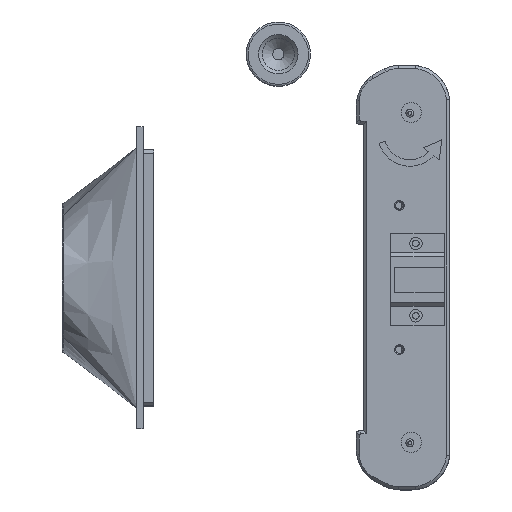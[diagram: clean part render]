
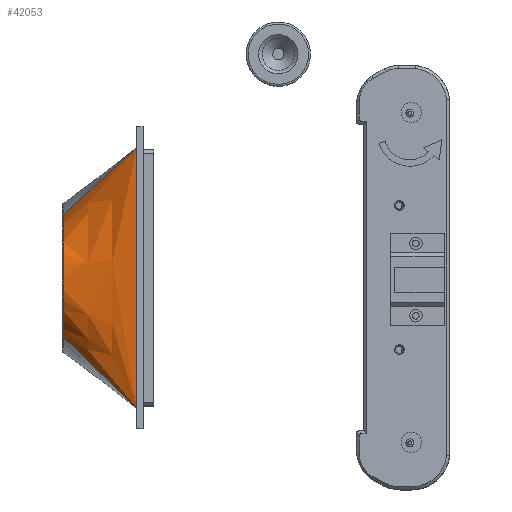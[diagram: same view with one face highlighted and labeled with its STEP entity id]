
A CAD part, top view. The second image highlights one B-rep face of the part: STEP entity #42053.
In plain terms, the highlighted free-form (B-spline) face has degree [3, 3] with [8, 4] control points.
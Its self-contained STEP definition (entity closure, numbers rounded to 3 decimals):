
#315=B_SPLINE_SURFACE_WITH_KNOTS($,3,3,((#75288,#75289,#75290,#75291),(#75292,
#75293,#75294,#75295),(#75296,#75297,#75298,#75299),(#75300,#75301,#75302,
#75303),(#75304,#75305,#75306,#75307),(#75308,#75309,#75310,#75311),(#75312,
#75313,#75314,#75315),(#75316,#75317,#75318,#75319)),.UNSPECIFIED.,.F.,
 .F.,.F.,(4,1,1,1,1,4),(4,4),(0.,0.143,
0.286,0.571,0.857,1.),
(0.,1.),.UNSPECIFIED.);
#1832=CIRCLE($,#45073,3.7);
#1833=CIRCLE($,#45074,3.7);
#4520=FACE_OUTER_BOUND($,#7305,.T.);
#7305=EDGE_LOOP($,(#37099,#37100,#37101,#37102,#37103));
#11845=LINE($,#75122,#16435);
#11879=LINE($,#75220,#16469);
#11882=LINE($,#75287,#16472);
#16435=VECTOR($,#55342,12.944);
#16469=VECTOR($,#55408,5.386);
#16472=VECTOR($,#55415,5.405);
#19816=VERTEX_POINT($,#75093);
#19819=VERTEX_POINT($,#75100);
#19845=VERTEX_POINT($,#75217);
#19848=VERTEX_POINT($,#75285);
#19849=VERTEX_POINT($,#75320);
#25581=EDGE_CURVE($,#19819,#19816,#11845,.T.);
#25616=EDGE_CURVE($,#19845,#19816,#11879,.T.);
#25621=EDGE_CURVE($,#19848,#19819,#11882,.T.);
#25622=EDGE_CURVE($,#19848,#19849,#1832,.T.);
#25623=EDGE_CURVE($,#19849,#19845,#1833,.T.);
#37099=ORIENTED_EDGE($,*,*,#25622,.F.);
#37100=ORIENTED_EDGE($,*,*,#25621,.T.);
#37101=ORIENTED_EDGE($,*,*,#25581,.T.);
#37102=ORIENTED_EDGE($,*,*,#25616,.F.);
#37103=ORIENTED_EDGE($,*,*,#25623,.F.);
#42053=ADVANCED_FACE($,(#4520),#315,.F.);
#45073=AXIS2_PLACEMENT_3D($,#75321,#55416,#55417);
#45074=AXIS2_PLACEMENT_3D($,#75322,#55418,#55419);
#55342=DIRECTION($,(0.,1.,0.));
#55408=DIRECTION($,(0.68,0.622,0.389));
#55415=DIRECTION($,(0.678,-0.652,0.341));
#55416=DIRECTION('center_axis',(-1.,0.,0.));
#55417=DIRECTION('ref_axis',(0.,0.,-1.));
#55418=DIRECTION('center_axis',(-1.,0.,0.));
#55419=DIRECTION('ref_axis',(0.,0.,-1.));
#75093=CARTESIAN_POINT('',(-27.166,23.366,9.901));
#75100=CARTESIAN_POINT('',(-27.166,10.422,9.901));
#75122=CARTESIAN_POINT($,(-27.166,20.13,9.901));
#75217=CARTESIAN_POINT('',(-30.829,20.018,7.808));
#75220=CARTESIAN_POINT($,(-30.829,20.018,7.808));
#75285=CARTESIAN_POINT('',(-30.829,13.945,8.06));
#75287=CARTESIAN_POINT($,(-30.829,13.945,8.06));
#75288=CARTESIAN_POINT('Ctrl Pts',(-30.829,13.945,8.06));
#75289=CARTESIAN_POINT('Ctrl Pts',(-29.608,12.77,8.674));
#75290=CARTESIAN_POINT('Ctrl Pts',(-28.387,11.596,9.287));
#75291=CARTESIAN_POINT('Ctrl Pts',(-27.166,10.421,9.901));
#75292=CARTESIAN_POINT('Ctrl Pts',(-30.829,14.15,8.331));
#75293=CARTESIAN_POINT('Ctrl Pts',(-29.608,13.113,8.854));
#75294=CARTESIAN_POINT('Ctrl Pts',(-28.387,12.075,9.378));
#75295=CARTESIAN_POINT('Ctrl Pts',(-27.166,11.038,9.901));
#75296=CARTESIAN_POINT('Ctrl Pts',(-30.829,14.635,8.814));
#75297=CARTESIAN_POINT('Ctrl Pts',(-29.608,13.847,9.177));
#75298=CARTESIAN_POINT('Ctrl Pts',(-28.387,13.059,9.539));
#75299=CARTESIAN_POINT('Ctrl Pts',(-27.166,12.271,9.901));
#75300=CARTESIAN_POINT('Ctrl Pts',(-30.829,15.832,9.486));
#75301=CARTESIAN_POINT('Ctrl Pts',(-29.608,15.467,9.624));
#75302=CARTESIAN_POINT('Ctrl Pts',(-28.387,15.102,9.763));
#75303=CARTESIAN_POINT('Ctrl Pts',(-27.166,14.737,9.901));
#75304=CARTESIAN_POINT('Ctrl Pts',(-30.829,17.587,9.656));
#75305=CARTESIAN_POINT('Ctrl Pts',(-29.608,17.665,9.738));
#75306=CARTESIAN_POINT('Ctrl Pts',(-28.387,17.741,9.819));
#75307=CARTESIAN_POINT('Ctrl Pts',(-27.166,17.819,9.901));
#75308=CARTESIAN_POINT('Ctrl Pts',(-30.829,19.172,8.881));
#75309=CARTESIAN_POINT('Ctrl Pts',(-29.608,19.748,9.221));
#75310=CARTESIAN_POINT('Ctrl Pts',(-28.387,20.325,9.561));
#75311=CARTESIAN_POINT('Ctrl Pts',(-27.166,20.901,9.901));
#75312=CARTESIAN_POINT('Ctrl Pts',(-30.829,19.836,8.095));
#75313=CARTESIAN_POINT('Ctrl Pts',(-29.608,20.807,8.697));
#75314=CARTESIAN_POINT('Ctrl Pts',(-28.387,21.778,9.299));
#75315=CARTESIAN_POINT('Ctrl Pts',(-27.166,22.75,9.901));
#75316=CARTESIAN_POINT('Ctrl Pts',(-30.829,20.018,7.808));
#75317=CARTESIAN_POINT('Ctrl Pts',(-29.608,21.134,8.506));
#75318=CARTESIAN_POINT('Ctrl Pts',(-28.387,22.25,9.203));
#75319=CARTESIAN_POINT('Ctrl Pts',(-27.166,23.367,9.901));
#75320=CARTESIAN_POINT('',(-30.829,16.894,9.526));
#75321=CARTESIAN_POINT('Origin',(-30.829,16.894,5.826));
#75322=CARTESIAN_POINT('Origin',(-30.829,16.894,5.826));
